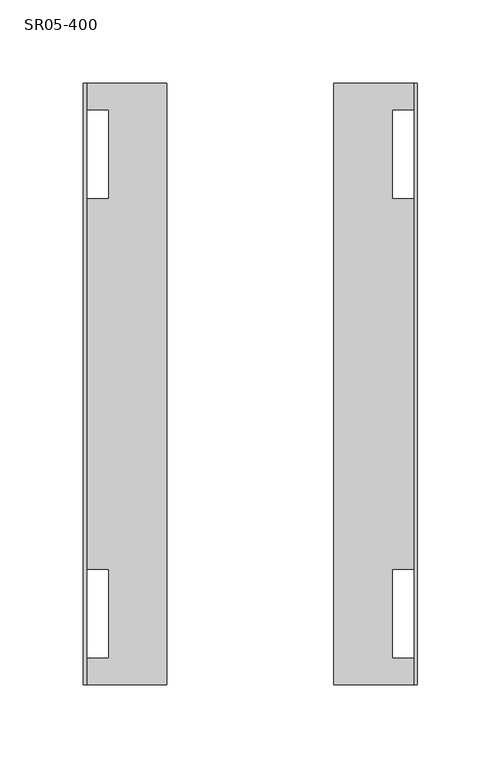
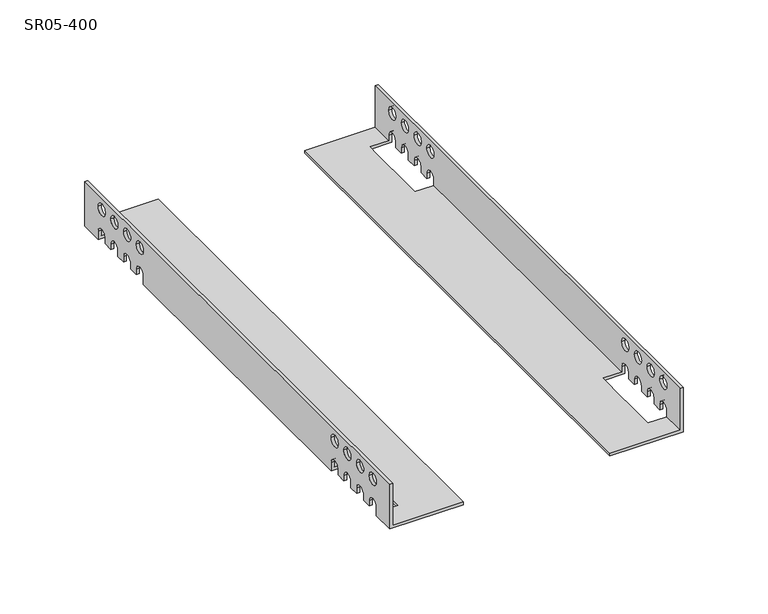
"""IFC4 building model written with IfcOpenShell, lengths in millimetres: proxy geometry, Уголки : SR05-400."""

from ifc_helpers import new_model, si_unit, frame, origin, place, context, project, spatial, polyline, circle_curve, source, transform, mapped, element, save
from ifc_brep_helpers import plane_surface, revolved_surface, advanced_brep


def sr05_400_e49731d8(model_context):
    return source(origin(), model_context, "Body", "AdvancedBrep", [
        advanced_brep(
        [(-98.0, -180.0, 32.0), (-100.0, -180.0, 32.0), (-100.0, -180.0, 0.0), (-50.0, -180.0, 0.0), (-50.0, -180.0, 2.0), (-98.0, -180.0, 2.0), (-98.0, 180.0, 32.0), (-98.0, 180.0, 2.0), (-50.0, 180.0, 2.0), (-50.0, 180.0, 0.0), (-100.0, 180.0, 0.0), (-100.0, 180.0, 32.0), (-100.0, 164.1733431, 0.0), (-100.0, 164.1733431, 5.925008), (-100.0, 155.8266569, 5.925008), (-100.0, 155.8266569, 2.0), (-100.0, 149.1733431, 2.0), (-100.0, 149.1733431, 5.925008), (-100.0, 140.8266569, 5.925008), (-100.0, 140.8266569, 2.0), (-100.0, 134.1733431, 2.0), (-100.0, 134.1733431, 5.925008), (-100.0, 125.8266569, 5.925008), (-100.0, 125.8266569, 2.0), (-100.0, 119.1733431, 2.0), (-100.0, 119.1733431, 5.925008), (-100.0, 110.8266569, 5.925008), (-100.0, 110.8266569, 0.0), (-100.0, -110.8266569, 0.0), (-100.0, -110.8266569, 5.925008), (-100.0, -119.1733431, 5.925008), (-100.0, -119.1733431, 2.0), (-100.0, -125.8266569, 2.0), (-100.0, -125.8266569, 5.925008), (-100.0, -134.1733431, 5.925008), (-100.0, -134.1733431, 2.0), (-100.0, -140.8266569, 2.0), (-100.0, -140.8266569, 5.925008), (-100.0, -149.1733431, 5.925008), (-100.0, -149.1733431, 2.0), (-100.0, -155.8266569, 2.0), (-100.0, -155.8266569, 5.925008), (-100.0, -164.1733431, 5.925008), (-100.0, -164.1733431, 0.0), (-100.0, -149.1733431, 24.0), (-100.0, -140.8266569, 24.0), (-100.0, -164.1733431, 24.0), (-100.0, -155.8266569, 24.0), (-100.0, -134.1733431, 24.0), (-100.0, -125.8266569, 24.0), (-100.0, -119.1733431, 24.0), (-100.0, -110.8266569, 24.0), (-100.0, 140.8266569, 24.0), (-100.0, 149.1733431, 24.0), (-100.0, 155.8266569, 24.0), (-100.0, 164.1733431, 24.0), (-100.0, 125.8266569, 24.0), (-100.0, 134.1733431, 24.0), (-100.0, 110.8266569, 24.0), (-100.0, 119.1733431, 24.0), (-85.0, -164.1733431, 0.0), (-85.0, -110.8266569, 0.0), (-85.0, 110.8266569, 0.0), (-85.0, 164.1733431, 0.0), (-98.0, 164.1733431, 2.0), (-85.0, 164.1733431, 2.0), (-85.0, 155.8266569, 2.0), (-85.0, 149.1733431, 2.0), (-85.0, 140.8266569, 2.0), (-85.0, 134.1733431, 2.0), (-85.0, 125.8266569, 2.0), (-85.0, 119.1733431, 2.0), (-85.0, 110.8266569, 2.0), (-98.0, 110.8266569, 2.0), (-98.0, -110.8266569, 2.0), (-85.0, -110.8266569, 2.0), (-85.0, -119.1733431, 2.0), (-85.0, -125.8266569, 2.0), (-85.0, -134.1733431, 2.0), (-85.0, -140.8266569, 2.0), (-85.0, -149.1733431, 2.0), (-85.0, -155.8266569, 2.0), (-85.0, -164.1733431, 2.0), (-98.0, -164.1733431, 2.0), (-98.0, -164.1733431, 5.925008), (-98.0, -155.8266569, 5.925008), (-98.0, -155.8266569, 2.0), (-98.0, -149.1733431, 2.0), (-98.0, -149.1733431, 5.925008), (-98.0, -140.8266569, 5.925008), (-98.0, -140.8266569, 2.0), (-98.0, -134.1733431, 2.0), (-98.0, -134.1733431, 5.925008), (-98.0, -125.8266569, 5.925008), (-98.0, -125.8266569, 2.0), (-98.0, -119.1733431, 2.0), (-98.0, -119.1733431, 5.925008), (-98.0, -110.8266569, 5.925008), (-98.0, 110.8266569, 5.925008), (-98.0, 119.1733431, 5.925008), (-98.0, 119.1733431, 2.0), (-98.0, 125.8266569, 2.0), (-98.0, 125.8266569, 5.925008), (-98.0, 134.1733431, 5.925008), (-98.0, 134.1733431, 2.0), (-98.0, 140.8266569, 2.0), (-98.0, 140.8266569, 5.925008), (-98.0, 149.1733431, 5.925008), (-98.0, 149.1733431, 2.0), (-98.0, 155.8266569, 2.0), (-98.0, 155.8266569, 5.925008), (-98.0, 164.1733431, 5.925008), (-98.0, -140.8266569, 24.0), (-98.0, -149.1733431, 24.0), (-98.0, -155.8266569, 24.0), (-98.0, -164.1733431, 24.0), (-98.0, -125.8266569, 24.0), (-98.0, -134.1733431, 24.0), (-98.0, -110.8266569, 24.0), (-98.0, -119.1733431, 24.0), (-98.0, 149.1733431, 24.0), (-98.0, 140.8266569, 24.0), (-98.0, 164.1733431, 24.0), (-98.0, 155.8266569, 24.0), (-98.0, 134.1733431, 24.0), (-98.0, 125.8266569, 24.0), (-98.0, 119.1733431, 24.0), (-98.0, 110.8266569, 24.0)],
        [
            (0, 1),
            (1, 2),
            (2, 3),
            (3, 4),
            (4, 5),
            (5, 0),
            (6, 7),
            (7, 8),
            (8, 9),
            (9, 10),
            (10, 11),
            (11, 6),
            (0, 6),
            (11, 1),
            (10, 12),
            (12, 13),
            (13, 14, circle_curve(frame((-100.0, 160.0, 5.925008), z_axis=(1.0, 0.0, 0.0), x_axis=(0.0, -1.0, 0.0)), 4.1733431)),
            (14, 15),
            (15, 16),
            (16, 17),
            (17, 18, circle_curve(frame((-100.0, 145.0, 5.925008), z_axis=(1.0, 0.0, 0.0), x_axis=(0.0, -1.0, 0.0)), 4.1733431)),
            (18, 19),
            (19, 20),
            (20, 21),
            (21, 22, circle_curve(frame((-100.0, 130.0, 5.925008), z_axis=(1.0, 0.0, 0.0), x_axis=(0.0, -1.0, 0.0)), 4.1733431)),
            (22, 23),
            (23, 24),
            (24, 25),
            (25, 26, circle_curve(frame((-100.0, 115.0, 5.925008), z_axis=(1.0, 0.0, 0.0), x_axis=(0.0, -1.0, 0.0)), 4.1733431)),
            (26, 27),
            (27, 28),
            (28, 29),
            (29, 30, circle_curve(frame((-100.0, -115.0, 5.925008), z_axis=(1.0, 0.0, 0.0), x_axis=(0.0, -1.0, 0.0)), 4.1733431)),
            (30, 31),
            (31, 32),
            (32, 33),
            (33, 34, circle_curve(frame((-100.0, -130.0, 5.925008), z_axis=(1.0, 0.0, 0.0), x_axis=(0.0, -1.0, 0.0)), 4.1733431)),
            (34, 35),
            (35, 36),
            (36, 37),
            (37, 38, circle_curve(frame((-100.0, -145.0, 5.925008), z_axis=(1.0, 0.0, 0.0), x_axis=(0.0, -1.0, 0.0)), 4.1733431)),
            (38, 39),
            (39, 40),
            (40, 41),
            (41, 42, circle_curve(frame((-100.0, -160.0, 5.925008), z_axis=(1.0, 0.0, 0.0), x_axis=(0.0, -1.0, 0.0)), 4.1733431)),
            (42, 43),
            (43, 2),
            (44, 45, circle_curve(frame((-100.0, -145.0, 24.0), z_axis=(1.0, 0.0, 0.0), x_axis=(0.0, -1.0, 0.0)), 4.1733431)),
            (45, 44, circle_curve(frame((-100.0, -145.0, 24.0), z_axis=(1.0, 0.0, 0.0), x_axis=(0.0, -1.0, 0.0)), 4.1733431)),
            (46, 47, circle_curve(frame((-100.0, -160.0, 24.0), z_axis=(1.0, 0.0, 0.0), x_axis=(0.0, -1.0, 0.0)), 4.1733431)),
            (47, 46, circle_curve(frame((-100.0, -160.0, 24.0), z_axis=(1.0, 0.0, 0.0), x_axis=(0.0, -1.0, 0.0)), 4.1733431)),
            (48, 49, circle_curve(frame((-100.0, -130.0, 24.0), z_axis=(1.0, 0.0, 0.0), x_axis=(0.0, -1.0, 0.0)), 4.1733431)),
            (49, 48, circle_curve(frame((-100.0, -130.0, 24.0), z_axis=(1.0, 0.0, 0.0), x_axis=(0.0, -1.0, 0.0)), 4.1733431)),
            (50, 51, circle_curve(frame((-100.0, -115.0, 24.0), z_axis=(1.0, 0.0, 0.0), x_axis=(0.0, -1.0, 0.0)), 4.1733431)),
            (51, 50, circle_curve(frame((-100.0, -115.0, 24.0), z_axis=(1.0, 0.0, 0.0), x_axis=(0.0, -1.0, 0.0)), 4.1733431)),
            (52, 53, circle_curve(frame((-100.0, 145.0, 24.0), z_axis=(1.0, 0.0, 0.0), x_axis=(0.0, -1.0, 0.0)), 4.1733431)),
            (53, 52, circle_curve(frame((-100.0, 145.0, 24.0), z_axis=(1.0, 0.0, 0.0), x_axis=(0.0, -1.0, 0.0)), 4.1733431)),
            (54, 55, circle_curve(frame((-100.0, 160.0, 24.0), z_axis=(1.0, 0.0, 0.0), x_axis=(0.0, -1.0, 0.0)), 4.1733431)),
            (55, 54, circle_curve(frame((-100.0, 160.0, 24.0), z_axis=(1.0, 0.0, 0.0), x_axis=(0.0, -1.0, 0.0)), 4.1733431)),
            (56, 57, circle_curve(frame((-100.0, 130.0, 24.0), z_axis=(1.0, 0.0, 0.0), x_axis=(0.0, -1.0, 0.0)), 4.1733431)),
            (57, 56, circle_curve(frame((-100.0, 130.0, 24.0), z_axis=(1.0, 0.0, 0.0), x_axis=(0.0, -1.0, 0.0)), 4.1733431)),
            (58, 59, circle_curve(frame((-100.0, 115.0, 24.0), z_axis=(1.0, 0.0, 0.0), x_axis=(0.0, -1.0, 0.0)), 4.1733431)),
            (59, 58, circle_curve(frame((-100.0, 115.0, 24.0), z_axis=(1.0, 0.0, 0.0), x_axis=(0.0, -1.0, 0.0)), 4.1733431)),
            (43, 60),
            (60, 61),
            (61, 28),
            (27, 62),
            (62, 63),
            (63, 12),
            (9, 3),
            (8, 4),
            (7, 64),
            (64, 65),
            (65, 66),
            (66, 67),
            (67, 68),
            (68, 69),
            (69, 70),
            (70, 71),
            (71, 72),
            (72, 73),
            (73, 74),
            (74, 75),
            (75, 76),
            (76, 77),
            (77, 78),
            (78, 79),
            (79, 80),
            (80, 81),
            (81, 82),
            (82, 83),
            (83, 5),
            (83, 84),
            (84, 85, circle_curve(frame((-98.0, -160.0, 5.925008), z_axis=(-1.0, 0.0, 0.0), x_axis=(0.0, -1.0, 0.0)), 4.1733431)),
            (85, 86),
            (86, 87),
            (87, 88),
            (88, 89, circle_curve(frame((-98.0, -145.0, 5.925008), z_axis=(-1.0, 0.0, 0.0), x_axis=(0.0, -1.0, 0.0)), 4.1733431)),
            (89, 90),
            (90, 91),
            (91, 92),
            (92, 93, circle_curve(frame((-98.0, -130.0, 5.925008), z_axis=(-1.0, 0.0, 0.0), x_axis=(0.0, -1.0, 0.0)), 4.1733431)),
            (93, 94),
            (94, 95),
            (95, 96),
            (96, 97, circle_curve(frame((-98.0, -115.0, 5.925008), z_axis=(-1.0, 0.0, 0.0), x_axis=(0.0, -1.0, 0.0)), 4.1733431)),
            (97, 74),
            (73, 98),
            (98, 99, circle_curve(frame((-98.0, 115.0, 5.925008), z_axis=(-1.0, 0.0, 0.0), x_axis=(0.0, -1.0, 0.0)), 4.1733431)),
            (99, 100),
            (100, 101),
            (101, 102),
            (102, 103, circle_curve(frame((-98.0, 130.0, 5.925008), z_axis=(-1.0, 0.0, 0.0), x_axis=(0.0, -1.0, 0.0)), 4.1733431)),
            (103, 104),
            (104, 105),
            (105, 106),
            (106, 107, circle_curve(frame((-98.0, 145.0, 5.925008), z_axis=(-1.0, 0.0, 0.0), x_axis=(0.0, -1.0, 0.0)), 4.1733431)),
            (107, 108),
            (108, 109),
            (109, 110),
            (110, 111, circle_curve(frame((-98.0, 160.0, 5.925008), z_axis=(-1.0, 0.0, 0.0), x_axis=(0.0, -1.0, 0.0)), 4.1733431)),
            (111, 64),
            (112, 113, circle_curve(frame((-98.0, -145.0, 24.0), z_axis=(-1.0, 0.0, 0.0), x_axis=(0.0, -1.0, 0.0)), 4.1733431)),
            (113, 112, circle_curve(frame((-98.0, -145.0, 24.0), z_axis=(-1.0, 0.0, 0.0), x_axis=(0.0, -1.0, 0.0)), 4.1733431)),
            (114, 115, circle_curve(frame((-98.0, -160.0, 24.0), z_axis=(-1.0, 0.0, 0.0), x_axis=(0.0, -1.0, 0.0)), 4.1733431)),
            (115, 114, circle_curve(frame((-98.0, -160.0, 24.0), z_axis=(-1.0, 0.0, 0.0), x_axis=(0.0, -1.0, 0.0)), 4.1733431)),
            (116, 117, circle_curve(frame((-98.0, -130.0, 24.0), z_axis=(-1.0, 0.0, 0.0), x_axis=(0.0, -1.0, 0.0)), 4.1733431)),
            (117, 116, circle_curve(frame((-98.0, -130.0, 24.0), z_axis=(-1.0, 0.0, 0.0), x_axis=(0.0, -1.0, 0.0)), 4.1733431)),
            (118, 119, circle_curve(frame((-98.0, -115.0, 24.0), z_axis=(-1.0, 0.0, 0.0), x_axis=(0.0, -1.0, 0.0)), 4.1733431)),
            (119, 118, circle_curve(frame((-98.0, -115.0, 24.0), z_axis=(-1.0, 0.0, 0.0), x_axis=(0.0, -1.0, 0.0)), 4.1733431)),
            (120, 121, circle_curve(frame((-98.0, 145.0, 24.0), z_axis=(-1.0, 0.0, 0.0), x_axis=(0.0, -1.0, 0.0)), 4.1733431)),
            (121, 120, circle_curve(frame((-98.0, 145.0, 24.0), z_axis=(-1.0, 0.0, 0.0), x_axis=(0.0, -1.0, 0.0)), 4.1733431)),
            (122, 123, circle_curve(frame((-98.0, 160.0, 24.0), z_axis=(-1.0, 0.0, 0.0), x_axis=(0.0, -1.0, 0.0)), 4.1733431)),
            (123, 122, circle_curve(frame((-98.0, 160.0, 24.0), z_axis=(-1.0, 0.0, 0.0), x_axis=(0.0, -1.0, 0.0)), 4.1733431)),
            (124, 125, circle_curve(frame((-98.0, 130.0, 24.0), z_axis=(-1.0, 0.0, 0.0), x_axis=(0.0, -1.0, 0.0)), 4.1733431)),
            (125, 124, circle_curve(frame((-98.0, 130.0, 24.0), z_axis=(-1.0, 0.0, 0.0), x_axis=(0.0, -1.0, 0.0)), 4.1733431)),
            (126, 127, circle_curve(frame((-98.0, 115.0, 24.0), z_axis=(-1.0, 0.0, 0.0), x_axis=(0.0, -1.0, 0.0)), 4.1733431)),
            (127, 126, circle_curve(frame((-98.0, 115.0, 24.0), z_axis=(-1.0, 0.0, 0.0), x_axis=(0.0, -1.0, 0.0)), 4.1733431)),
            (75, 61),
            (60, 82),
            (65, 63),
            (62, 72),
            (112, 45),
            (44, 113),
            (114, 47),
            (46, 115),
            (116, 49),
            (48, 117),
            (118, 51),
            (50, 119),
            (120, 53),
            (52, 121),
            (122, 55),
            (54, 123),
            (124, 57),
            (56, 125),
            (126, 59),
            (58, 127),
            (95, 31),
            (30, 96),
            (29, 97),
            (91, 35),
            (34, 92),
            (33, 93),
            (32, 94),
            (87, 39),
            (38, 88),
            (37, 89),
            (36, 90),
            (42, 84),
            (41, 85),
            (40, 86),
            (23, 101),
            (100, 24),
            (22, 102),
            (21, 103),
            (20, 104),
            (19, 105),
            (18, 106),
            (17, 107),
            (16, 108),
            (15, 109),
            (14, 110),
            (13, 111),
            (26, 98),
            (25, 99),
        ],
        [
            plane_surface(frame((-100.0, -180.0, 32.0), z_axis=(0.0, -1.0, 0.0), x_axis=(-1.0, 0.0, 0.0))),
            plane_surface(frame((-100.0, 180.0, 32.0), z_axis=(0.0, 1.0, 0.0), x_axis=(1.0, 0.0, 0.0))),
            plane_surface(frame((-98.0, -180.0, 32.0), z_axis=(0.0, 0.0, 1.0), x_axis=(0.0, 1.0, 0.0))),
            plane_surface(frame((-100.0, -180.0, 32.0), z_axis=(-1.0, 0.0, 0.0), x_axis=(0.0, 1.0, 0.0))),
            plane_surface(frame((-100.0, -180.0, 0.0), z_axis=(0.0, 0.0, -1.0), x_axis=(0.0, 1.0, 0.0))),
            plane_surface(frame((-50.0, -180.0, 0.0), z_axis=(1.0, 0.0, 0.0), x_axis=(0.0, 1.0, 0.0))),
            plane_surface(frame((-50.0, -180.0, 2.0), z_axis=(0.0, 0.0, 1.0), x_axis=(0.0, 1.0, 0.0))),
            plane_surface(frame((-98.0, -180.0, 2.0), z_axis=(1.0, 0.0, 0.0), x_axis=(0.0, 1.0, 0.0))),
            plane_surface(frame((-85.0, -149.1733431, 24.0), z_axis=(-1.0, 0.0, 0.0), x_axis=(0.0, 0.0, -1.0))),
            revolved_surface(polyline([(-100.0, -149.1733431, 24.0), (-98.0, -149.1733431, 24.0)]), (-85.0, -145.0, 24.0), (-1.0, 0.0, 0.0)),
            revolved_surface(polyline([(-100.0, -164.1733431, 24.0), (-98.0, -164.1733431, 24.0)]), (-100.0, -160.0, 24.0), (-1.0, 0.0, 0.0)),
            revolved_surface(polyline([(-100.0, -134.1733431, 24.0), (-98.0, -134.1733431, 24.0)]), (-100.0, -130.0, 24.0), (-1.0, 0.0, 0.0)),
            revolved_surface(polyline([(-100.0, -119.1733431, 24.0), (-98.0, -119.1733431, 24.0)]), (-100.0, -115.0, 24.0), (-1.0, 0.0, 0.0)),
            revolved_surface(polyline([(-100.0, 140.8266569, 24.0), (-98.0, 140.8266569, 24.0)]), (-100.0, 145.0, 24.0), (-1.0, 0.0, 0.0)),
            revolved_surface(polyline([(-100.0, 155.8266569, 24.0), (-98.0, 155.8266569, 24.0)]), (-100.0, 160.0, 24.0), (-1.0, 0.0, 0.0)),
            revolved_surface(polyline([(-100.0, 125.8266569, 24.0), (-98.0, 125.8266569, 24.0)]), (-100.0, 130.0, 24.0), (-1.0, 0.0, 0.0)),
            revolved_surface(polyline([(-100.0, 110.8266569, 24.0), (-98.0, 110.8266569, 24.0)]), (-100.0, 115.0, 24.0), (-1.0, 0.0, 0.0)),
            plane_surface(frame((-100.0, -119.1733431, 2.0), z_axis=(0.0, 1.0, 0.0), x_axis=(1.0, 0.0, 0.0))),
            revolved_surface(polyline([(-100.0, -119.1733431, 5.925008), (-98.0, -119.1733431, 5.925008)]), (-100.0, -115.0, 5.925008), (-1.0, 0.0, 0.0)),
            plane_surface(frame((-100.0, -110.8266569, 5.925008), z_axis=(0.0, -1.0, 0.0), x_axis=(1.0, 0.0, 0.0))),
            plane_surface(frame((-100.0, -134.1733431, 2.0), z_axis=(0.0, 1.0, 0.0), x_axis=(1.0, 0.0, 0.0))),
            revolved_surface(polyline([(-100.0, -134.1733431, 5.925008), (-98.0, -134.1733431, 5.925008)]), (-100.0, -130.0, 5.925008), (-1.0, 0.0, 0.0)),
            plane_surface(frame((-100.0, -125.8266569, 5.925008), z_axis=(0.0, -1.0, 0.0), x_axis=(1.0, 0.0, 0.0))),
            plane_surface(frame((-100.0, -125.8266569, 2.0), z_axis=(0.0, 0.0, -1.0), x_axis=(1.0, 0.0, 0.0))),
            plane_surface(frame((-100.0, -149.1733431, 2.0), z_axis=(0.0, 1.0, 1.344959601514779e-11), x_axis=(1.0, 0.0, 0.0))),
            revolved_surface(polyline([(-100.0, -149.1733431, 5.925008), (-98.0, -149.1733431, 5.925008)]), (-100.0, -145.0, 5.925008), (-1.0, 0.0, 0.0)),
            plane_surface(frame((-100.0, -140.8266569, 5.925008), z_axis=(0.0, -1.0, 0.0), x_axis=(1.0, 0.0, 0.0))),
            plane_surface(frame((-100.0, -140.8266569, 2.0), z_axis=(0.0, 0.0, -1.0), x_axis=(1.0, 0.0, 0.0))),
            plane_surface(frame((-100.0, -164.1733431, 0.0), z_axis=(0.0, 1.0, 0.0), x_axis=(1.0, 0.0, 0.0))),
            revolved_surface(polyline([(-100.0, -164.1733431, 5.925008), (-98.0, -164.1733431, 5.925008)]), (-100.0, -160.0, 5.925008), (-1.0, 0.0, 0.0)),
            plane_surface(frame((-100.0, -155.8266569, 5.925008), z_axis=(0.0, -1.0, 0.0), x_axis=(1.0, 0.0, 0.0))),
            plane_surface(frame((-100.0, -155.8266569, 2.0), z_axis=(0.0, 0.0, -1.0), x_axis=(1.0, 0.0, 0.0))),
            plane_surface(frame((-100.0, 119.1733431, 2.0), z_axis=(0.0, 0.0, -1.0), x_axis=(1.0, 0.0, 0.0))),
            plane_surface(frame((-100.0, 125.8266569, 2.0), z_axis=(0.0, 1.0, 0.0), x_axis=(1.0, 0.0, 0.0))),
            revolved_surface(polyline([(-100.0, 125.8266569, 5.925008), (-98.0, 125.8266569, 5.925008)]), (-100.0, 130.0, 5.925008), (-1.0, 0.0, 0.0)),
            plane_surface(frame((-100.0, 134.1733431, 5.925008), z_axis=(0.0, -1.0, 0.0), x_axis=(1.0, 0.0, 0.0))),
            plane_surface(frame((-100.0, 134.1733431, 2.0), z_axis=(0.0, 0.0, -1.0), x_axis=(1.0, 0.0, 0.0))),
            plane_surface(frame((-100.0, 140.8266569, 2.0), z_axis=(0.0, 1.0, 0.0), x_axis=(1.0, 0.0, 0.0))),
            revolved_surface(polyline([(-100.0, 140.8266569, 5.925008), (-98.0, 140.8266569, 5.925008)]), (-100.0, 145.0, 5.925008), (-1.0, 0.0, 0.0)),
            plane_surface(frame((-100.0, 149.1733431, 5.925008), z_axis=(0.0, -1.0, -5.810915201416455e-12), x_axis=(1.0, 0.0, 0.0))),
            plane_surface(frame((-100.0, 149.1733431, 2.0), z_axis=(0.0, 0.0, -1.0), x_axis=(1.0, 0.0, 0.0))),
            plane_surface(frame((-100.0, 155.8266569, 2.0), z_axis=(0.0, 1.0, 0.0), x_axis=(1.0, 0.0, 0.0))),
            revolved_surface(polyline([(-100.0, 155.8266569, 5.925008), (-98.0, 155.8266569, 5.925008)]), (-100.0, 160.0, 5.925008), (-1.0, 0.0, 0.0)),
            plane_surface(frame((-100.0, 164.1733431, 5.925008), z_axis=(0.0, -1.0, 0.0), x_axis=(1.0, 0.0, 0.0))),
            plane_surface(frame((-100.0, 110.8266569, 0.0), z_axis=(0.0, 1.0, 0.0), x_axis=(1.0, 0.0, 0.0))),
            revolved_surface(polyline([(-100.0, 110.8266569, 5.925008), (-98.0, 110.8266569, 5.925008)]), (-100.0, 115.0, 5.925008), (-1.0, 0.0, 0.0)),
            plane_surface(frame((-100.0, 119.1733431, 5.925008), z_axis=(0.0, -1.0, 0.0), x_axis=(1.0, 0.0, 0.0))),
        ],
        [
            (0, [[1, 2, 3, 4, 5, 6]]),
            (1, [[7, 8, 9, 10, 11, 12]]),
            (2, [[-1, 13, -12, 14]]),
            (3, [[-2, -14, -11, 15, 16, 17, 18, 19, 20, 21, 22, 23, 24, 25, 26, 27, 28, 29, 30, 31, 32, 33, 34, 35, 36, 37, 38, 39, 40, 41, 42, 43, 44, 45, 46, 47], [48, 49], [50, 51], [52, 53], [54, 55], [56, 57], [58, 59], [60, 61], [62, 63]]),
            (4, [[-3, -47, 64, 65, 66, -31, 67, 68, 69, -15, -10, 70]]),
            (5, [[-4, -70, -9, 71]]),
            (6, [[-5, -71, -8, 72, 73, 74, 75, 76, 77, 78, 79, 80, 81, 82, 83, 84, 85, 86, 87, 88, 89, 90, 91, 92]]),
            (7, [[-6, -92, 93, 94, 95, 96, 97, 98, 99, 100, 101, 102, 103, 104, 105, 106, 107, -82, 108, 109, 110, 111, 112, 113, 114, 115, 116, 117, 118, 119, 120, 121, 122, -72, -7, -13], [123, 124], [125, 126], [127, 128], [129, 130], [131, 132], [133, 134], [135, 136], [137, 138]]),
            (8, [[139, -65, 140, -90, -89, -88, -87, -86, -85, -84]]),
            (8, [[141, -68, 142, -80, -79, -78, -77, -76, -75, -74]]),
            (9, [[143, -48, 144, -123]]),
            (9, [[-143, -124, -144, -49]]),
            (10, [[145, -50, 146, -125]]),
            (10, [[-145, -126, -146, -51]]),
            (11, [[147, -52, 148, -127]]),
            (11, [[-147, -128, -148, -53]]),
            (12, [[149, -54, 150, -129]]),
            (12, [[-149, -130, -150, -55]]),
            (13, [[151, -56, 152, -131]]),
            (13, [[-151, -132, -152, -57]]),
            (14, [[153, -58, 154, -133]]),
            (14, [[-153, -134, -154, -59]]),
            (15, [[155, -60, 156, -135]]),
            (15, [[-155, -136, -156, -61]]),
            (16, [[157, -62, 158, -137]]),
            (16, [[-157, -138, -158, -63]]),
            (17, [[159, -34, 160, -105]]),
            (18, [[-160, -33, 161, -106]]),
            (19, [[-139, -83, -107, -161, -32, -66]]),
            (20, [[162, -38, 163, -101]]),
            (21, [[-163, -37, 164, -102]]),
            (22, [[165, -103, -164, -36]]),
            (23, [[-159, -104, -165, -35]]),
            (24, [[166, -42, 167, -97]]),
            (25, [[-167, -41, 168, -98]]),
            (26, [[169, -99, -168, -40]]),
            (27, [[-162, -100, -169, -39]]),
            (28, [[-140, -64, -46, 170, -93, -91]]),
            (29, [[-170, -45, 171, -94]]),
            (30, [[172, -95, -171, -44]]),
            (31, [[-166, -96, -172, -43]]),
            (32, [[173, -111, 174, -27]]),
            (33, [[-173, -26, 175, -112]]),
            (34, [[-175, -25, 176, -113]]),
            (35, [[177, -114, -176, -24]]),
            (36, [[-177, -23, 178, -115]]),
            (37, [[-178, -22, 179, -116]]),
            (38, [[-179, -21, 180, -117]]),
            (39, [[181, -118, -180, -20]]),
            (40, [[-181, -19, 182, -119]]),
            (41, [[-182, -18, 183, -120]]),
            (42, [[-183, -17, 184, -121]]),
            (43, [[-141, -73, -122, -184, -16, -69]]),
            (44, [[-142, -67, -30, 185, -108, -81]]),
            (45, [[-185, -29, 186, -109]]),
            (46, [[-174, -110, -186, -28]]),
        ],
    ),
        advanced_brep(
        [(98.0, -180.0, 32.0), (98.0, -180.0, 2.0), (50.0, -180.0, 2.0), (50.0, -180.0, 0.0), (100.0, -180.0, 0.0), (100.0, -180.0, 32.0), (98.0, 180.0, 32.0), (100.0, 180.0, 32.0), (100.0, 180.0, 0.0), (50.0, 180.0, 0.0), (50.0, 180.0, 2.0), (98.0, 180.0, 2.0), (98.0, 164.1733431, 2.0), (98.0, 164.1733431, 5.925008), (98.0, 155.8266569, 5.925008), (98.0, 155.8266569, 2.0), (98.0, 149.1733431, 2.0), (98.0, 149.1733431, 5.925008), (98.0, 140.8266569, 5.925008), (98.0, 140.8266569, 2.0), (98.0, 134.1733431, 2.0), (98.0, 134.1733431, 5.925008), (98.0, 125.8266569, 5.925008), (98.0, 125.8266569, 2.0), (98.0, 119.1733431, 2.0), (98.0, 119.1733431, 5.925008), (98.0, 110.8266569, 5.925008), (98.0, 110.8266569, 2.0), (98.0, -110.8266569, 2.0), (98.0, -110.8266569, 5.925008), (98.0, -119.1733431, 5.925008), (98.0, -119.1733431, 2.0), (98.0, -125.8266569, 2.0), (98.0, -125.8266569, 5.925008), (98.0, -134.1733431, 5.925008), (98.0, -134.1733431, 2.0), (98.0, -140.8266569, 2.0), (98.0, -140.8266569, 5.925008), (98.0, -149.1733431, 5.925008), (98.0, -149.1733431, 2.0), (98.0, -155.8266569, 2.0), (98.0, -155.8266569, 5.925008), (98.0, -164.1733431, 5.925008), (98.0, -164.1733431, 2.0), (98.0, -149.1733431, 24.0), (98.0, -140.8266569, 24.0), (98.0, -164.1733431, 24.0), (98.0, -155.8266569, 24.0), (98.0, -134.1733431, 24.0), (98.0, -125.8266569, 24.0), (98.0, -119.1733431, 24.0), (98.0, -110.8266569, 24.0), (98.0, 140.8266569, 24.0), (98.0, 149.1733431, 24.0), (98.0, 155.8266569, 24.0), (98.0, 164.1733431, 24.0), (98.0, 125.8266569, 24.0), (98.0, 134.1733431, 24.0), (98.0, 110.8266569, 24.0), (98.0, 119.1733431, 24.0), (85.0, -164.1733431, 2.0), (85.0, -155.8266569, 2.0), (85.0, -149.1733431, 2.0), (85.0, -140.8266569, 2.0), (85.0, -134.1733431, 2.0), (85.0, -125.8266569, 2.0), (85.0, -119.1733431, 2.0), (85.0, -110.8266569, 2.0), (85.0, 110.8266569, 2.0), (85.0, 119.1733431, 2.0), (85.0, 125.8266569, 2.0), (85.0, 134.1733431, 2.0), (85.0, 140.8266569, 2.0), (85.0, 149.1733431, 2.0), (85.0, 155.8266569, 2.0), (85.0, 164.1733431, 2.0), (100.0, 164.1733431, 0.0), (85.0, 164.1733431, 0.0), (85.0, 110.8266569, 0.0), (100.0, 110.8266569, 0.0), (100.0, -110.8266569, 0.0), (85.0, -110.8266569, 0.0), (85.0, -164.1733431, 0.0), (100.0, -164.1733431, 0.0), (100.0, -164.1733431, 5.925008), (100.0, -155.8266569, 5.925008), (100.0, -155.8266569, 2.0), (100.0, -149.1733431, 2.0), (100.0, -149.1733431, 5.925008), (100.0, -140.8266569, 5.925008), (100.0, -140.8266569, 2.0), (100.0, -134.1733431, 2.0), (100.0, -134.1733431, 5.925008), (100.0, -125.8266569, 5.925008), (100.0, -125.8266569, 2.0), (100.0, -119.1733431, 2.0), (100.0, -119.1733431, 5.925008), (100.0, -110.8266569, 5.925008), (100.0, 110.8266569, 5.925008), (100.0, 119.1733431, 5.925008), (100.0, 119.1733431, 2.0), (100.0, 125.8266569, 2.0), (100.0, 125.8266569, 5.925008), (100.0, 134.1733431, 5.925008), (100.0, 134.1733431, 2.0), (100.0, 140.8266569, 2.0), (100.0, 140.8266569, 5.925008), (100.0, 149.1733431, 5.925008), (100.0, 149.1733431, 2.0), (100.0, 155.8266569, 2.0), (100.0, 155.8266569, 5.925008), (100.0, 164.1733431, 5.925008), (100.0, -140.8266569, 24.0), (100.0, -149.1733431, 24.0), (100.0, -155.8266569, 24.0), (100.0, -164.1733431, 24.0), (100.0, -125.8266569, 24.0), (100.0, -134.1733431, 24.0), (100.0, -110.8266569, 24.0), (100.0, -119.1733431, 24.0), (100.0, 149.1733431, 24.0), (100.0, 140.8266569, 24.0), (100.0, 164.1733431, 24.0), (100.0, 155.8266569, 24.0), (100.0, 134.1733431, 24.0), (100.0, 125.8266569, 24.0), (100.0, 119.1733431, 24.0), (100.0, 110.8266569, 24.0)],
        [
            (0, 1),
            (1, 2),
            (2, 3),
            (3, 4),
            (4, 5),
            (5, 0),
            (6, 7),
            (7, 8),
            (8, 9),
            (9, 10),
            (10, 11),
            (11, 6),
            (0, 6),
            (11, 12),
            (12, 13),
            (13, 14, circle_curve(frame((98.0, 160.0, 5.925008), z_axis=(1.0, 0.0, 0.0), x_axis=(0.0, -1.0, 0.0)), 4.1733431)),
            (14, 15),
            (15, 16),
            (16, 17),
            (17, 18, circle_curve(frame((98.0, 145.0, 5.925008), z_axis=(1.0, 0.0, 0.0), x_axis=(0.0, -1.0, 0.0)), 4.1733431)),
            (18, 19),
            (19, 20),
            (20, 21),
            (21, 22, circle_curve(frame((98.0, 130.0, 5.925008), z_axis=(1.0, 0.0, 0.0), x_axis=(0.0, -1.0, 0.0)), 4.1733431)),
            (22, 23),
            (23, 24),
            (24, 25),
            (25, 26, circle_curve(frame((98.0, 115.0, 5.925008), z_axis=(1.0, 0.0, 0.0), x_axis=(0.0, -1.0, 0.0)), 4.1733431)),
            (26, 27),
            (27, 28),
            (28, 29),
            (29, 30, circle_curve(frame((98.0, -115.0, 5.925008), z_axis=(1.0, 0.0, 0.0), x_axis=(0.0, -1.0, 0.0)), 4.1733431)),
            (30, 31),
            (31, 32),
            (32, 33),
            (33, 34, circle_curve(frame((98.0, -130.0, 5.925008), z_axis=(1.0, 0.0, 0.0), x_axis=(0.0, -1.0, 0.0)), 4.1733431)),
            (34, 35),
            (35, 36),
            (36, 37),
            (37, 38, circle_curve(frame((98.0, -145.0, 5.925008), z_axis=(1.0, 0.0, 0.0), x_axis=(0.0, -1.0, 0.0)), 4.1733431)),
            (38, 39),
            (39, 40),
            (40, 41),
            (41, 42, circle_curve(frame((98.0, -160.0, 5.925008), z_axis=(1.0, 0.0, 0.0), x_axis=(0.0, -1.0, 0.0)), 4.1733431)),
            (42, 43),
            (43, 1),
            (44, 45, circle_curve(frame((98.0, -145.0, 24.0), z_axis=(1.0, 0.0, 0.0), x_axis=(0.0, -1.0, 0.0)), 4.1733431)),
            (45, 44, circle_curve(frame((98.0, -145.0, 24.0), z_axis=(1.0, 0.0, 0.0), x_axis=(0.0, -1.0, 0.0)), 4.1733431)),
            (46, 47, circle_curve(frame((98.0, -160.0, 24.0), z_axis=(1.0, 0.0, 0.0), x_axis=(0.0, -1.0, 0.0)), 4.1733431)),
            (47, 46, circle_curve(frame((98.0, -160.0, 24.0), z_axis=(1.0, 0.0, 0.0), x_axis=(0.0, -1.0, 0.0)), 4.1733431)),
            (48, 49, circle_curve(frame((98.0, -130.0, 24.0), z_axis=(1.0, 0.0, 0.0), x_axis=(0.0, -1.0, 0.0)), 4.1733431)),
            (49, 48, circle_curve(frame((98.0, -130.0, 24.0), z_axis=(1.0, 0.0, 0.0), x_axis=(0.0, -1.0, 0.0)), 4.1733431)),
            (50, 51, circle_curve(frame((98.0, -115.0, 24.0), z_axis=(1.0, 0.0, 0.0), x_axis=(0.0, -1.0, 0.0)), 4.1733431)),
            (51, 50, circle_curve(frame((98.0, -115.0, 24.0), z_axis=(1.0, 0.0, 0.0), x_axis=(0.0, -1.0, 0.0)), 4.1733431)),
            (52, 53, circle_curve(frame((98.0, 145.0, 24.0), z_axis=(1.0, 0.0, 0.0), x_axis=(0.0, -1.0, 0.0)), 4.1733431)),
            (53, 52, circle_curve(frame((98.0, 145.0, 24.0), z_axis=(1.0, 0.0, 0.0), x_axis=(0.0, -1.0, 0.0)), 4.1733431)),
            (54, 55, circle_curve(frame((98.0, 160.0, 24.0), z_axis=(1.0, 0.0, 0.0), x_axis=(0.0, -1.0, 0.0)), 4.1733431)),
            (55, 54, circle_curve(frame((98.0, 160.0, 24.0), z_axis=(1.0, 0.0, 0.0), x_axis=(0.0, -1.0, 0.0)), 4.1733431)),
            (56, 57, circle_curve(frame((98.0, 130.0, 24.0), z_axis=(1.0, 0.0, 0.0), x_axis=(0.0, -1.0, 0.0)), 4.1733431)),
            (57, 56, circle_curve(frame((98.0, 130.0, 24.0), z_axis=(1.0, 0.0, 0.0), x_axis=(0.0, -1.0, 0.0)), 4.1733431)),
            (58, 59, circle_curve(frame((98.0, 115.0, 24.0), z_axis=(1.0, 0.0, 0.0), x_axis=(0.0, -1.0, 0.0)), 4.1733431)),
            (59, 58, circle_curve(frame((98.0, 115.0, 24.0), z_axis=(1.0, 0.0, 0.0), x_axis=(0.0, -1.0, 0.0)), 4.1733431)),
            (43, 60),
            (60, 61),
            (61, 62),
            (62, 63),
            (63, 64),
            (64, 65),
            (65, 66),
            (66, 67),
            (67, 28),
            (27, 68),
            (68, 69),
            (69, 70),
            (70, 71),
            (71, 72),
            (72, 73),
            (73, 74),
            (74, 75),
            (75, 12),
            (10, 2),
            (9, 3),
            (8, 76),
            (76, 77),
            (77, 78),
            (78, 79),
            (79, 80),
            (80, 81),
            (81, 82),
            (82, 83),
            (83, 4),
            (83, 84),
            (84, 85, circle_curve(frame((100.0, -160.0, 5.925008), z_axis=(-1.0, 0.0, 0.0), x_axis=(0.0, -1.0, 0.0)), 4.1733431)),
            (85, 86),
            (86, 87),
            (87, 88),
            (88, 89, circle_curve(frame((100.0, -145.0, 5.925008), z_axis=(-1.0, 0.0, 0.0), x_axis=(0.0, -1.0, 0.0)), 4.1733431)),
            (89, 90),
            (90, 91),
            (91, 92),
            (92, 93, circle_curve(frame((100.0, -130.0, 5.925008), z_axis=(-1.0, 0.0, 0.0), x_axis=(0.0, -1.0, 0.0)), 4.1733431)),
            (93, 94),
            (94, 95),
            (95, 96),
            (96, 97, circle_curve(frame((100.0, -115.0, 5.925008), z_axis=(-1.0, 0.0, 0.0), x_axis=(0.0, -1.0, 0.0)), 4.1733431)),
            (97, 80),
            (79, 98),
            (98, 99, circle_curve(frame((100.0, 115.0, 5.925008), z_axis=(-1.0, 0.0, 0.0), x_axis=(0.0, -1.0, 0.0)), 4.1733431)),
            (99, 100),
            (100, 101),
            (101, 102),
            (102, 103, circle_curve(frame((100.0, 130.0, 5.925008), z_axis=(-1.0, 0.0, 0.0), x_axis=(0.0, -1.0, 0.0)), 4.1733431)),
            (103, 104),
            (104, 105),
            (105, 106),
            (106, 107, circle_curve(frame((100.0, 145.0, 5.925008), z_axis=(-1.0, 0.0, 0.0), x_axis=(0.0, -1.0, 0.0)), 4.1733431)),
            (107, 108),
            (108, 109),
            (109, 110),
            (110, 111, circle_curve(frame((100.0, 160.0, 5.925008), z_axis=(-1.0, 0.0, 0.0), x_axis=(0.0, -1.0, 0.0)), 4.1733431)),
            (111, 76),
            (7, 5),
            (112, 113, circle_curve(frame((100.0, -145.0, 24.0), z_axis=(-1.0, 0.0, 0.0), x_axis=(0.0, -1.0, 0.0)), 4.1733431)),
            (113, 112, circle_curve(frame((100.0, -145.0, 24.0), z_axis=(-1.0, 0.0, 0.0), x_axis=(0.0, -1.0, 0.0)), 4.1733431)),
            (114, 115, circle_curve(frame((100.0, -160.0, 24.0), z_axis=(-1.0, 0.0, 0.0), x_axis=(0.0, -1.0, 0.0)), 4.1733431)),
            (115, 114, circle_curve(frame((100.0, -160.0, 24.0), z_axis=(-1.0, 0.0, 0.0), x_axis=(0.0, -1.0, 0.0)), 4.1733431)),
            (116, 117, circle_curve(frame((100.0, -130.0, 24.0), z_axis=(-1.0, 0.0, 0.0), x_axis=(0.0, -1.0, 0.0)), 4.1733431)),
            (117, 116, circle_curve(frame((100.0, -130.0, 24.0), z_axis=(-1.0, 0.0, 0.0), x_axis=(0.0, -1.0, 0.0)), 4.1733431)),
            (118, 119, circle_curve(frame((100.0, -115.0, 24.0), z_axis=(-1.0, 0.0, 0.0), x_axis=(0.0, -1.0, 0.0)), 4.1733431)),
            (119, 118, circle_curve(frame((100.0, -115.0, 24.0), z_axis=(-1.0, 0.0, 0.0), x_axis=(0.0, -1.0, 0.0)), 4.1733431)),
            (120, 121, circle_curve(frame((100.0, 145.0, 24.0), z_axis=(-1.0, 0.0, 0.0), x_axis=(0.0, -1.0, 0.0)), 4.1733431)),
            (121, 120, circle_curve(frame((100.0, 145.0, 24.0), z_axis=(-1.0, 0.0, 0.0), x_axis=(0.0, -1.0, 0.0)), 4.1733431)),
            (122, 123, circle_curve(frame((100.0, 160.0, 24.0), z_axis=(-1.0, 0.0, 0.0), x_axis=(0.0, -1.0, 0.0)), 4.1733431)),
            (123, 122, circle_curve(frame((100.0, 160.0, 24.0), z_axis=(-1.0, 0.0, 0.0), x_axis=(0.0, -1.0, 0.0)), 4.1733431)),
            (124, 125, circle_curve(frame((100.0, 130.0, 24.0), z_axis=(-1.0, 0.0, 0.0), x_axis=(0.0, -1.0, 0.0)), 4.1733431)),
            (125, 124, circle_curve(frame((100.0, 130.0, 24.0), z_axis=(-1.0, 0.0, 0.0), x_axis=(0.0, -1.0, 0.0)), 4.1733431)),
            (126, 127, circle_curve(frame((100.0, 115.0, 24.0), z_axis=(-1.0, 0.0, 0.0), x_axis=(0.0, -1.0, 0.0)), 4.1733431)),
            (127, 126, circle_curve(frame((100.0, 115.0, 24.0), z_axis=(-1.0, 0.0, 0.0), x_axis=(0.0, -1.0, 0.0)), 4.1733431)),
            (68, 78),
            (77, 75),
            (60, 82),
            (81, 67),
            (44, 113),
            (112, 45),
            (46, 115),
            (114, 47),
            (48, 117),
            (116, 49),
            (50, 119),
            (118, 51),
            (52, 121),
            (120, 53),
            (54, 123),
            (122, 55),
            (56, 125),
            (124, 57),
            (58, 127),
            (126, 59),
            (95, 31),
            (30, 96),
            (29, 97),
            (91, 35),
            (34, 92),
            (33, 93),
            (32, 94),
            (87, 39),
            (38, 88),
            (37, 89),
            (36, 90),
            (42, 84),
            (41, 85),
            (40, 86),
            (23, 101),
            (100, 24),
            (22, 102),
            (21, 103),
            (20, 104),
            (19, 105),
            (18, 106),
            (17, 107),
            (16, 108),
            (15, 109),
            (14, 110),
            (13, 111),
            (26, 98),
            (25, 99),
        ],
        [
            plane_surface(frame((-100.0, -180.0, 32.0), z_axis=(0.0, -1.0, 0.0), x_axis=(-1.0, 0.0, 0.0))),
            plane_surface(frame((-100.0, 180.0, 32.0), z_axis=(0.0, 1.0, 0.0), x_axis=(1.0, 0.0, 0.0))),
            plane_surface(frame((98.0, -180.0, 32.0), z_axis=(-1.0, 0.0, 0.0), x_axis=(0.0, 1.0, 0.0))),
            plane_surface(frame((98.0, -180.0, 2.0), z_axis=(0.0, 0.0, 1.0), x_axis=(0.0, 1.0, 0.0))),
            plane_surface(frame((50.0, -180.0, 2.0), z_axis=(-1.0, 0.0, 0.0), x_axis=(0.0, 1.0, 0.0))),
            plane_surface(frame((50.0, -180.0, 0.0), z_axis=(0.0, 0.0, -1.0), x_axis=(0.0, 1.0, 0.0))),
            plane_surface(frame((100.0, -180.0, 0.0), z_axis=(1.0, 0.0, 0.0), x_axis=(0.0, 1.0, 0.0))),
            plane_surface(frame((100.0, -180.0, 32.0), z_axis=(0.0, 0.0, 1.0), x_axis=(0.0, 1.0, 0.0))),
            plane_surface(frame((85.0, -149.1733431, 24.0), z_axis=(1.0, 0.0, 0.0), x_axis=(0.0, 0.0, 1.0))),
            revolved_surface(polyline([(100.0, -149.1733431, 24.0), (98.0, -149.1733431, 24.0)]), (85.0, -145.0, 24.0), (1.0, 0.0, 0.0)),
            revolved_surface(polyline([(100.0, -164.1733431, 24.0), (98.0, -164.1733431, 24.0)]), (200.0, -160.0, 24.0), (1.0, 0.0, 0.0)),
            revolved_surface(polyline([(100.0, -134.1733431, 24.0), (98.0, -134.1733431, 24.0)]), (200.0, -130.0, 24.0), (1.0, 0.0, 0.0)),
            revolved_surface(polyline([(100.0, -119.1733431, 24.0), (98.0, -119.1733431, 24.0)]), (200.0, -115.0, 24.0), (1.0, 0.0, 0.0)),
            revolved_surface(polyline([(100.0, 140.8266569, 24.0), (98.0, 140.8266569, 24.0)]), (200.0, 145.0, 24.0), (1.0, 0.0, 0.0)),
            revolved_surface(polyline([(100.0, 155.8266569, 24.0), (98.0, 155.8266569, 24.0)]), (200.0, 160.0, 24.0), (1.0, 0.0, 0.0)),
            revolved_surface(polyline([(100.0, 125.8266569, 24.0), (98.0, 125.8266569, 24.0)]), (200.0, 130.0, 24.0), (1.0, 0.0, 0.0)),
            revolved_surface(polyline([(100.0, 110.8266569, 24.0), (98.0, 110.8266569, 24.0)]), (200.0, 115.0, 24.0), (1.0, 0.0, 0.0)),
            plane_surface(frame((100.0, -119.1733431, 5.925008), z_axis=(0.0, 1.0, 0.0), x_axis=(-1.0, 0.0, 0.0))),
            revolved_surface(polyline([(100.0, -119.1733431, 5.925008), (98.0, -119.1733431, 5.925008)]), (200.0, -115.0, 5.925008), (1.0, 0.0, 0.0)),
            plane_surface(frame((100.0, -110.8266569, 0.0), z_axis=(0.0, -1.0, 0.0), x_axis=(-1.0, 0.0, 0.0))),
            plane_surface(frame((100.0, -134.1733431, 5.925008), z_axis=(0.0, 1.0, 0.0), x_axis=(-1.0, 0.0, 0.0))),
            revolved_surface(polyline([(100.0, -134.1733431, 5.925008), (98.0, -134.1733431, 5.925008)]), (200.0, -130.0, 5.925008), (1.0, 0.0, 0.0)),
            plane_surface(frame((100.0, -125.8266569, 2.0), z_axis=(0.0, -1.0, 0.0), x_axis=(-1.0, 0.0, 0.0))),
            plane_surface(frame((100.0, -119.1733431, 2.0), z_axis=(0.0, 0.0, -1.0), x_axis=(-1.0, 0.0, 0.0))),
            plane_surface(frame((100.0, -149.1733431, 5.925008), z_axis=(0.0, 1.0, 7.276576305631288e-12), x_axis=(-1.0, 0.0, 0.0))),
            revolved_surface(polyline([(100.0, -149.1733431, 5.925008), (98.0, -149.1733431, 5.925008)]), (200.0, -145.0, 5.925008), (1.0, 0.0, 0.0)),
            plane_surface(frame((100.0, -140.8266569, 2.0), z_axis=(0.0, -1.0, 0.0), x_axis=(-1.0, 0.0, 0.0))),
            plane_surface(frame((100.0, -134.1733431, 2.0), z_axis=(0.0, 0.0, -1.0), x_axis=(-1.0, 0.0, 0.0))),
            plane_surface(frame((100.0, -164.1733431, 5.925008), z_axis=(0.0, 1.0, 0.0), x_axis=(-1.0, 0.0, 0.0))),
            revolved_surface(polyline([(100.0, -164.1733431, 5.925008), (98.0, -164.1733431, 5.925008)]), (200.0, -160.0, 5.925008), (1.0, 0.0, 0.0)),
            plane_surface(frame((100.0, -155.8266569, 2.0), z_axis=(0.0, -1.0, 0.0), x_axis=(-1.0, 0.0, 0.0))),
            plane_surface(frame((100.0, -149.1733431, 2.0), z_axis=(0.0, 0.0, -1.0), x_axis=(-1.0, 0.0, 0.0))),
            plane_surface(frame((100.0, 125.8266569, 2.0), z_axis=(0.0, 0.0, -1.0), x_axis=(-1.0, 0.0, 0.0))),
            plane_surface(frame((100.0, 125.8266569, 5.925008), z_axis=(0.0, 1.0, 0.0), x_axis=(-1.0, 0.0, 0.0))),
            revolved_surface(polyline([(100.0, 125.8266569, 5.925008), (98.0, 125.8266569, 5.925008)]), (200.0, 130.0, 5.925008), (1.0, 0.0, 0.0)),
            plane_surface(frame((100.0, 134.1733431, 2.0), z_axis=(0.0, -1.0, 0.0), x_axis=(-1.0, 0.0, 0.0))),
            plane_surface(frame((100.0, 140.8266569, 2.0), z_axis=(0.0, 0.0, -1.0), x_axis=(-1.0, 0.0, 0.0))),
            plane_surface(frame((100.0, 140.8266569, 5.925008), z_axis=(0.0, 1.0, 0.0), x_axis=(-1.0, 0.0, 0.0))),
            revolved_surface(polyline([(100.0, 140.8266569, 5.925008), (98.0, 140.8266569, 5.925008)]), (200.0, 145.0, 5.925008), (1.0, 0.0, 0.0)),
            plane_surface(frame((100.0, 149.1733431, 2.0), z_axis=(0.0, -1.0, -1.6393850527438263e-11), x_axis=(-1.0, 0.0, 0.0))),
            plane_surface(frame((100.0, 155.8266569, 2.0), z_axis=(0.0, 0.0, -1.0), x_axis=(-1.0, 0.0, 0.0))),
            plane_surface(frame((100.0, 155.8266569, 5.925008), z_axis=(0.0, 1.0, 0.0), x_axis=(-1.0, 0.0, 0.0))),
            revolved_surface(polyline([(100.0, 155.8266569, 5.925008), (98.0, 155.8266569, 5.925008)]), (200.0, 160.0, 5.925008), (1.0, 0.0, 0.0)),
            plane_surface(frame((100.0, 164.1733431, 0.0), z_axis=(0.0, -1.0, 0.0), x_axis=(-1.0, 0.0, 0.0))),
            plane_surface(frame((100.0, 110.8266569, 5.925008), z_axis=(0.0, 1.0, 0.0), x_axis=(-1.0, 0.0, 0.0))),
            revolved_surface(polyline([(100.0, 110.8266569, 5.925008), (98.0, 110.8266569, 5.925008)]), (200.0, 115.0, 5.925008), (1.0, 0.0, 0.0)),
            plane_surface(frame((100.0, 119.1733431, 2.0), z_axis=(0.0, -1.0, 0.0), x_axis=(-1.0, 0.0, 0.0))),
        ],
        [
            (0, [[1, 2, 3, 4, 5, 6]]),
            (1, [[7, 8, 9, 10, 11, 12]]),
            (2, [[-1, 13, -12, 14, 15, 16, 17, 18, 19, 20, 21, 22, 23, 24, 25, 26, 27, 28, 29, 30, 31, 32, 33, 34, 35, 36, 37, 38, 39, 40, 41, 42, 43, 44, 45, 46], [47, 48], [49, 50], [51, 52], [53, 54], [55, 56], [57, 58], [59, 60], [61, 62]]),
            (3, [[-2, -46, 63, 64, 65, 66, 67, 68, 69, 70, 71, -30, 72, 73, 74, 75, 76, 77, 78, 79, 80, -14, -11, 81]]),
            (4, [[-3, -81, -10, 82]]),
            (5, [[-4, -82, -9, 83, 84, 85, 86, 87, 88, 89, 90, 91]]),
            (6, [[-5, -91, 92, 93, 94, 95, 96, 97, 98, 99, 100, 101, 102, 103, 104, 105, 106, -87, 107, 108, 109, 110, 111, 112, 113, 114, 115, 116, 117, 118, 119, 120, 121, -83, -8, 122], [123, 124], [125, 126], [127, 128], [129, 130], [131, 132], [133, 134], [135, 136], [137, 138]]),
            (7, [[-6, -122, -7, -13]]),
            (8, [[139, -85, 140, -79, -78, -77, -76, -75, -74, -73]]),
            (8, [[141, -89, 142, -70, -69, -68, -67, -66, -65, -64]]),
            (9, [[143, -123, 144, -47]]),
            (9, [[-143, -48, -144, -124]]),
            (10, [[145, -125, 146, -49]]),
            (10, [[-145, -50, -146, -126]]),
            (11, [[147, -127, 148, -51]]),
            (11, [[-147, -52, -148, -128]]),
            (12, [[149, -129, 150, -53]]),
            (12, [[-149, -54, -150, -130]]),
            (13, [[151, -131, 152, -55]]),
            (13, [[-151, -56, -152, -132]]),
            (14, [[153, -133, 154, -57]]),
            (14, [[-153, -58, -154, -134]]),
            (15, [[155, -135, 156, -59]]),
            (15, [[-155, -60, -156, -136]]),
            (16, [[157, -137, 158, -61]]),
            (16, [[-157, -62, -158, -138]]),
            (17, [[159, -33, 160, -104]]),
            (18, [[-160, -32, 161, -105]]),
            (19, [[-142, -88, -106, -161, -31, -71]]),
            (20, [[162, -37, 163, -100]]),
            (21, [[-163, -36, 164, -101]]),
            (22, [[165, -102, -164, -35]]),
            (23, [[-159, -103, -165, -34]]),
            (24, [[166, -41, 167, -96]]),
            (25, [[-167, -40, 168, -97]]),
            (26, [[169, -98, -168, -39]]),
            (27, [[-162, -99, -169, -38]]),
            (28, [[-141, -63, -45, 170, -92, -90]]),
            (29, [[-170, -44, 171, -93]]),
            (30, [[172, -94, -171, -43]]),
            (31, [[-166, -95, -172, -42]]),
            (32, [[173, -110, 174, -26]]),
            (33, [[-173, -25, 175, -111]]),
            (34, [[-175, -24, 176, -112]]),
            (35, [[177, -113, -176, -23]]),
            (36, [[-177, -22, 178, -114]]),
            (37, [[-178, -21, 179, -115]]),
            (38, [[-179, -20, 180, -116]]),
            (39, [[181, -117, -180, -19]]),
            (40, [[-181, -18, 182, -118]]),
            (41, [[-182, -17, 183, -119]]),
            (42, [[-183, -16, 184, -120]]),
            (43, [[-140, -84, -121, -184, -15, -80]]),
            (44, [[-139, -72, -29, 185, -107, -86]]),
            (45, [[-185, -28, 186, -108]]),
            (46, [[-174, -109, -186, -27]]),
        ],
    ),
    ])


if __name__ == "__main__":
    model = new_model("IFC4")
    model_context = context("Model", 3, world=origin())
    ifc_project = project(units=[si_unit("LENGTHUNIT", "METRE", prefix="MILLI")], contexts=[model_context])
    site = spatial("IfcSite", under=ifc_project)
    building = spatial("IfcBuilding", under=site)
    placement = place(None, origin())
    sr05_400_shape = sr05_400_e49731d8(model_context)
    element("IfcBuildingElementProxy", 1, Name="Уголки : SR05-400", ObjectType="Уголки : SR05-400", at=placement, inside=building, context=model_context, shape_type="MappedRepresentation", body=[
        mapped(sr05_400_shape, transform((0.0, 0.0, 0.0), x_axis=(1.0, 0.0, 0.0), y_axis=(0.0, 1.0, 0.0), z_axis=(0.0, 0.0, 1.0))),
    ])
    save(model, "model.ifc")
